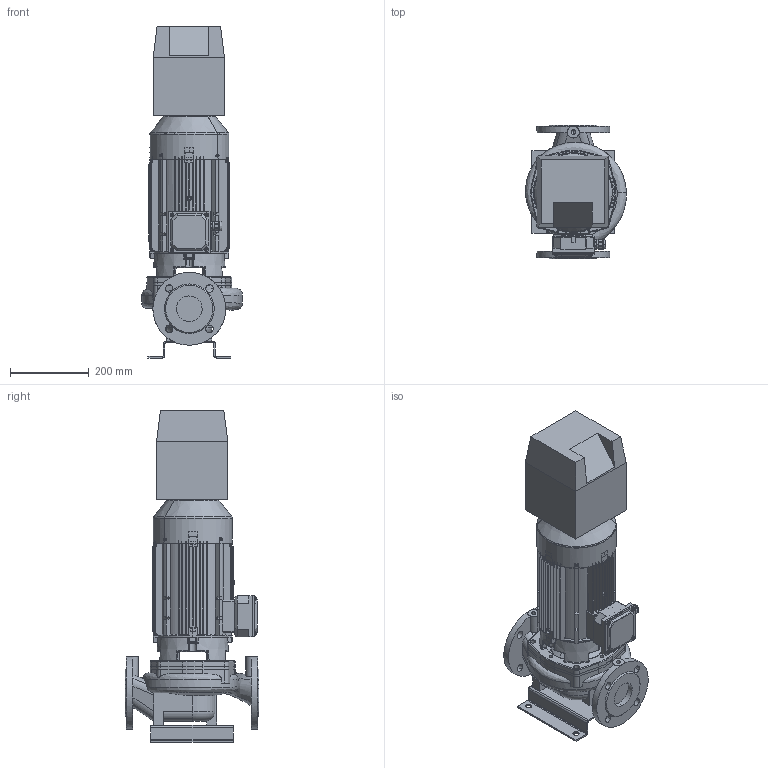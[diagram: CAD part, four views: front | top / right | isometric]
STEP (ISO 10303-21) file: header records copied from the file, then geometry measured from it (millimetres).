
FILE_DESCRIPTION(('STEP AP214'),'1');
FILE_NAME('export.stp','2018-08-08T13:33:30',(' '),(' '),'Spatial InterOp 3D',' ',' ');
FILE_SCHEMA(('AUTOMOTIVE_DESIGN { 1 0 10303 214 1 1 1 1 }'));
Length unit declared in the file: millimetre
Products named in the file (21): 160027; 160005; V_MKP100-1_F19; 160141; 160137; 160138; 160139; 160140; Koura_Ale_M5; Plug_Blind_M20; Sealing_Plug_M20; DIN_7985-M5X8; DIN_7985-M5X12; 160059___; 160060___; 160136; W_L65B2NC300KP; V_TLL65AB80A1102; V_PPL65AB; V_JALKA35973; NC_Size1
Assembly tree (23 placements, depth 4):
  W_L65B2NC300KP
    V_MKP100-1_F19
      160027
        160005
      160141
        160137
        160138
        160139
        160140
        Koura_Ale_M5
        Plug_Blind_M20
        Sealing_Plug_M20
        DIN_7985-M5X8
        DIN_7985-M5X12  x4
      160059___
      160060___
      160136
    V_TLL65AB80A1102
    V_PPL65AB
    V_JALKA35973
    NC_Size1
Bounding box: 256.45 x 340 x 843 mm (x, y, z)
Volume: 14292743.8 mm3; surface area: 1899015 mm2
Topology: 21 solids, 21 shells, 2469 faces, 6611 edges, 4193 vertices
Faces by surface type: plane 1067, cylinder 758, bspline 242, torus 240, cone 147, sphere 15
Entity records: 96252 total; most frequent: CARTESIAN_POINT 33144, ORIENTED_EDGE 12842, DIRECTION 11779, EDGE_CURVE 6421, AXIS2_PLACEMENT_3D 4387, VERTEX_POINT 4097, LINE 3005, VECTOR 3005
